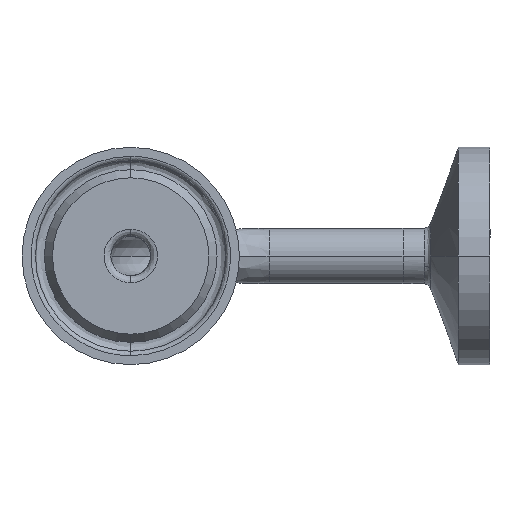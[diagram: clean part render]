
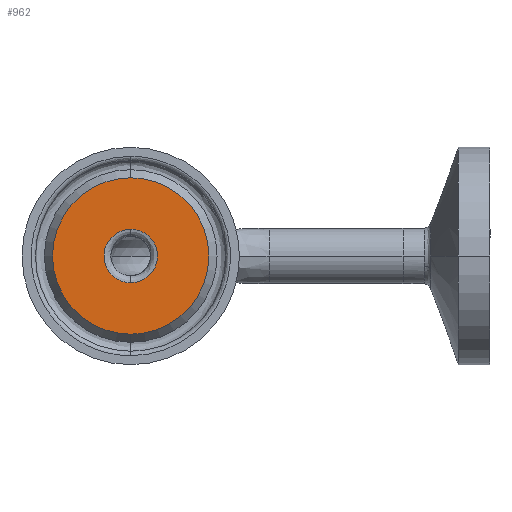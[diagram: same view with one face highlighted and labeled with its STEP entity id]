
A CAD part, front view. The second image highlights one B-rep face of the part: STEP entity #962.
In plain terms, the highlighted planar face has unit normal (0, -1, 0).
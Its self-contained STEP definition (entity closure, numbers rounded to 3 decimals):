
#44 = CARTESIAN_POINT ( 'NONE',  ( 0., -9.213, 3.073 ) ) ;
#65 = PLANE ( 'NONE',  #1757 ) ;
#101 = ORIENTED_EDGE ( 'NONE', *, *, #934, .F. ) ;
#119 = CARTESIAN_POINT ( 'NONE',  ( -3.073, -9.213, 0. ) ) ;
#272 = CARTESIAN_POINT ( 'NONE',  ( 0., -9.213, 0. ) ) ;
#351 = VERTEX_POINT ( 'NONE', #44 ) ;
#391 =( BOUNDED_CURVE ( )  B_SPLINE_CURVE ( 3, ( #1543, #1733, #1074, #873 ),
 .UNSPECIFIED., .F., .F. ) 
 B_SPLINE_CURVE_WITH_KNOTS ( ( 4, 4 ),
 ( 0., 1. ),
 .UNSPECIFIED. ) 
 CURVE ( )  GEOMETRIC_REPRESENTATION_ITEM ( )  RATIONAL_B_SPLINE_CURVE ( ( 1., 0.333, 0.333, 1. ) ) 
 REPRESENTATION_ITEM ( '' )  );
#397 = CIRCLE ( 'NONE', #1200, 8.987 ) ;
#424 = CARTESIAN_POINT ( 'NONE',  ( 0., -9.213, 8.987 ) ) ;
#459 = VERTEX_POINT ( 'NONE', #424 ) ;
#499 = CIRCLE ( 'NONE', #1365, 8.987 ) ;
#545 = EDGE_CURVE ( 'NONE', #351, #635, #970, .T. ) ;
#547 = DIRECTION ( 'NONE',  ( 0., 1., 0. ) ) ;
#571 = FACE_OUTER_BOUND ( 'NONE', #1008, .T. ) ;
#601 = CARTESIAN_POINT ( 'NONE',  ( 0., -9.213, -3.073 ) ) ;
#635 = VERTEX_POINT ( 'NONE', #1523 ) ;
#775 = EDGE_CURVE ( 'NONE', #635, #351, #391, .T. ) ;
#819 = DIRECTION ( 'NONE',  ( 0., 0., 1. ) ) ;
#862 = VERTEX_POINT ( 'NONE', #1290 ) ;
#867 = CARTESIAN_POINT ( 'NONE',  ( 0., -9.213, 0. ) ) ;
#873 = CARTESIAN_POINT ( 'NONE',  ( 0., -9.213, 3.073 ) ) ;
#895 = DIRECTION ( 'NONE',  ( 0., 1., 0. ) ) ;
#934 = EDGE_CURVE ( 'NONE', #862, #459, #397, .T. ) ;
#962 = ADVANCED_FACE ( 'NONE', ( #571, #1009 ), #65, .F. ) ;
#970 =( BOUNDED_CURVE ( )  B_SPLINE_CURVE ( 3, ( #1566, #2023, #1636, #601 ),
 .UNSPECIFIED., .F., .T. ) 
 B_SPLINE_CURVE_WITH_KNOTS ( ( 4, 4 ),
 ( 0., 1. ),
 .UNSPECIFIED. ) 
 CURVE ( )  GEOMETRIC_REPRESENTATION_ITEM ( )  RATIONAL_B_SPLINE_CURVE ( ( 1., 0.333, 0.333, 1. ) ) 
 REPRESENTATION_ITEM ( '' )  );
#1008 = EDGE_LOOP ( 'NONE', ( #1517, #101 ) ) ;
#1009 = FACE_BOUND ( 'NONE', #1882, .T. ) ;
#1074 = CARTESIAN_POINT ( 'NONE',  ( 6.147, -9.213, 3.073 ) ) ;
#1078 = DIRECTION ( 'NONE',  ( 0., 1., 0. ) ) ;
#1085 = ORIENTED_EDGE ( 'NONE', *, *, #545, .F. ) ;
#1146 = EDGE_CURVE ( 'NONE', #459, #862, #499, .T. ) ;
#1200 = AXIS2_PLACEMENT_3D ( 'NONE', #867, #895, #1230 ) ;
#1230 = DIRECTION ( 'NONE',  ( 0., 0., 1. ) ) ;
#1290 = CARTESIAN_POINT ( 'NONE',  ( 0., -9.213, -8.987 ) ) ;
#1365 = AXIS2_PLACEMENT_3D ( 'NONE', #272, #1078, #819 ) ;
#1400 = DIRECTION ( 'NONE',  ( 0., 0., 1. ) ) ;
#1407 = ORIENTED_EDGE ( 'NONE', *, *, #775, .F. ) ;
#1517 = ORIENTED_EDGE ( 'NONE', *, *, #1146, .F. ) ;
#1523 = CARTESIAN_POINT ( 'NONE',  ( 0., -9.213, -3.073 ) ) ;
#1543 = CARTESIAN_POINT ( 'NONE',  ( 0., -9.213, -3.073 ) ) ;
#1566 = CARTESIAN_POINT ( 'NONE',  ( 0., -9.213, 3.073 ) ) ;
#1636 = CARTESIAN_POINT ( 'NONE',  ( -6.147, -9.213, -3.073 ) ) ;
#1733 = CARTESIAN_POINT ( 'NONE',  ( 6.147, -9.213, -3.073 ) ) ;
#1757 = AXIS2_PLACEMENT_3D ( 'NONE', #119, #547, #1400 ) ;
#1882 = EDGE_LOOP ( 'NONE', ( #1407, #1085 ) ) ;
#2023 = CARTESIAN_POINT ( 'NONE',  ( -6.147, -9.213, 3.073 ) ) ;
